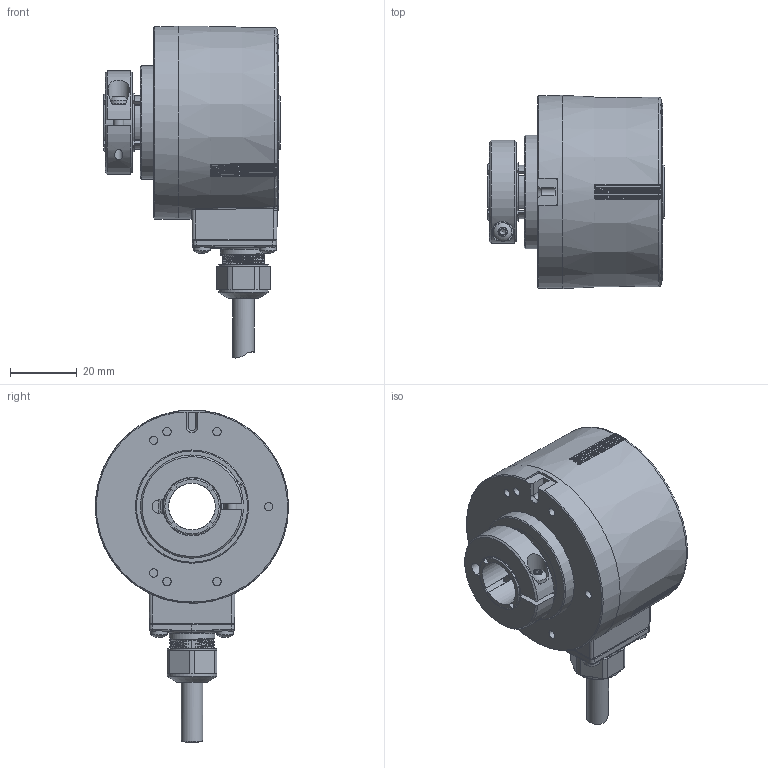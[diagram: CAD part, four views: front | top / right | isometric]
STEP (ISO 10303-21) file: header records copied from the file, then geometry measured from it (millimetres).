
FILE_DESCRIPTION( ( 'Unknown' ), '1' );
FILE_NAME( '//emea.baumernet.org/de05d/RD/caddy/k/GESAMT/EIL580/EIL580/3D/STEP/MarCom/EIL580-TP14.7Rx.xxxxx.A.stp', 'Unknown', ( 'Unknown' ), ( 'Unknown' ), 'PSStep 19.0.9', 'Unknown', ' ' );
FILE_SCHEMA( ( 'AUTOMOTIVE_DESIGN { 1 0 10303 214 1 1 1 1 }' ) );
Length unit declared in the file: millimetre
Products named in the file (2): Assem1; 1_56
Assembly tree (1 placements, depth 2):
  Assem1
    1_56
Bounding box: 53 x 58 x 99.64 mm (x, y, z)
Volume: 106757.6 mm3; surface area: 24071.8 mm2
Topology: 1 solids, 14 shells, 710 faces, 1767 edges, 1101 vertices
Faces by surface type: cylinder 205, plane 205, bspline 164, cone 67, torus 49, sphere 16, revolution 4
Full cylindrical faces by diameter (mm): 2.46 x15, 2.5 x4, 2.998 x1, 3.2 x1, 5 x4, 6.5 x1, 8.2 x1, 12.85 x1, 13.35 x1, 13.8 x1, 14 x1, 14.1 x1, 14.8 x2, 16.8 x1, 16.95 x1, 18.262 x1, 18.704 x1, 19 x1, 19.312 x1, 20.262 x1, 20.704 x1, 21.927 x1, 22.558 x1, 23.904 x1, 24 x1, 24.927 x1, 25.558 x1, 26 x2, 34 x1, 58 x1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
Entity records: 47013 total; most frequent: CARTESIAN_POINT 26496, ORIENTED_EDGE 3160, DIRECTION 2618, EDGE_CURVE 1580, AXIS2_PLACEMENT_3D 1099, VERTEX_POINT 1059, EDGE_LOOP 923, FACE_OUTER_BOUND 793
